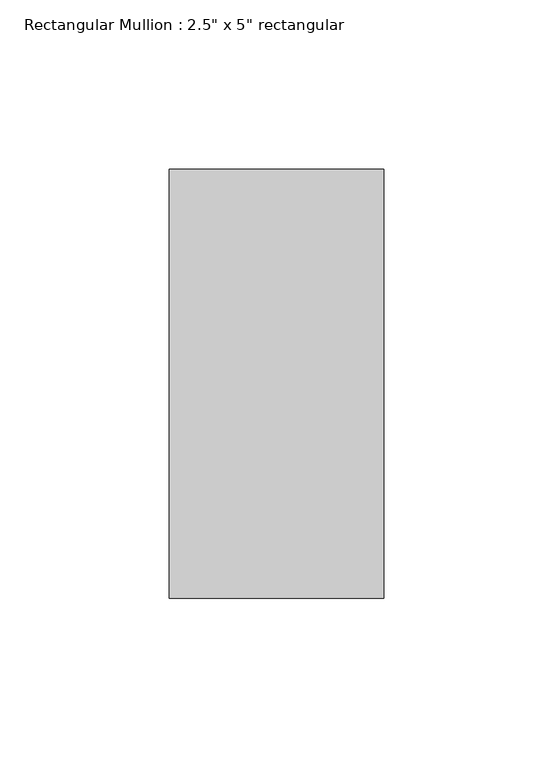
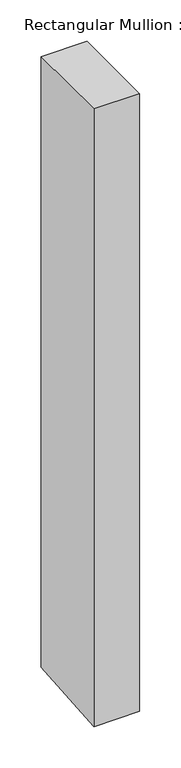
"""IFC4 building model written with IfcOpenShell, lengths in millimetres: member geometry."""

from ifc_helpers import new_model, si_unit, frame, origin, place, context, project, spatial, polyline, outline, extrude, source, transform, mapped, element, save


def member_ba27367e(model_context):
    return source(origin(), model_context, "Body", "SweptSolid", [
        extrude(outline(polyline([(-63.5, 0.0), (63.5, 0.0), (63.5, -898.7719445), (-63.5, -908.8722785), (-63.5, 0.0)])), frame((-63.5, 0.0, 0.0), z_axis=(1.0, 0.0, 0.0), x_axis=(0.0, 1.0, 0.0)), (0.0, 0.0, 1.0), 63.5),
    ])


if __name__ == "__main__":
    model = new_model("IFC4")
    model_context = context("Model", 3, world=origin())
    ifc_project = project(units=[si_unit("LENGTHUNIT", "METRE", prefix="MILLI")], contexts=[model_context])
    site = spatial("IfcSite", under=ifc_project)
    building = spatial("IfcBuilding", under=site)
    placement = place(None, origin())
    member_shape = member_ba27367e(model_context)
    element("IfcMember", 1, ObjectType="Rectangular Mullion : 2.5\" x 5\" rectangular", at=placement, inside=building, context=model_context, shape_type="MappedRepresentation", body=[
        mapped(member_shape, transform((0.0, 0.0, 0.0), x_axis=(1.0, 0.0, 0.0), y_axis=(0.0, 1.0, 0.0), z_axis=(0.0, 0.0, 1.0))),
    ])
    save(model, "model.ifc")
